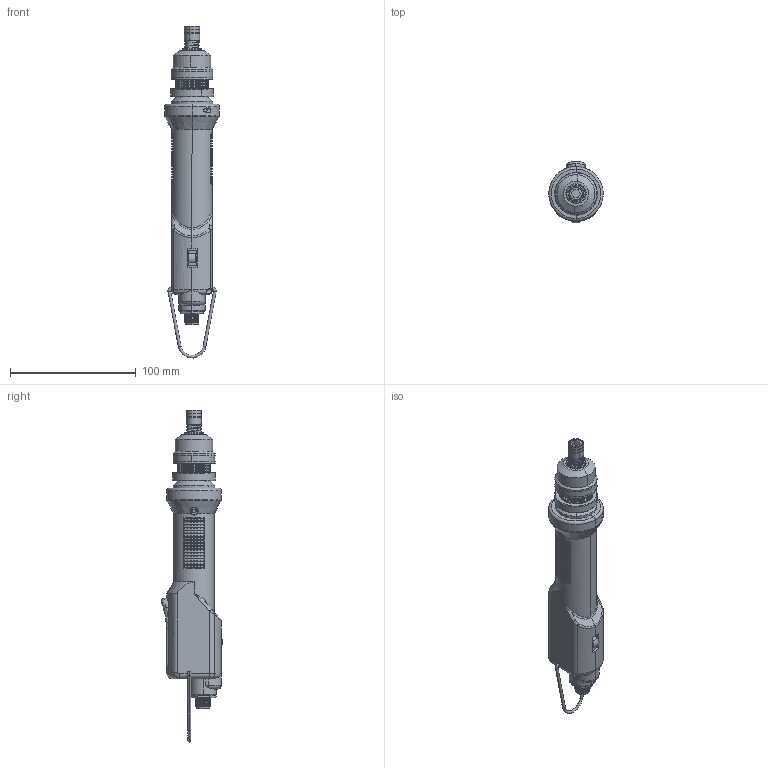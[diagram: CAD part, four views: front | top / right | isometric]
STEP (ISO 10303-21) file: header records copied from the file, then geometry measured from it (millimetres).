
FILE_DESCRIPTION (( 'STEP AP214' ), '1' );
FILE_NAME ('FAB 12-18_FR.STEP', '2014-04-16T14:43:04', ( 'davide' ), ( '' ), 'SwSTEP 2.0', 'SolidWorks 2013', '' );
FILE_SCHEMA (( 'AUTOMOTIVE_DESIGN' ));
Length unit declared in the file: millimetre
Products named in the file (1): FAB 12-18_FR
Bounding box: 43.3 x 48.67 x 263.57 mm (x, y, z)
Volume: 66701.8 mm3; surface area: 75752.2 mm2
Topology: 27 solids, 27 shells, 2686 faces, 6831 edges, 4404 vertices
Faces by surface type: plane 1179, cylinder 946, bspline 269, cone 206, torus 78, sphere 8
Entity records: 233974 total; most frequent: CARTESIAN_POINT 142039, ORIENTED_EDGE 13598, DIRECTION 12222, EDGE_CURVE 6799, AXIS2_PLACEMENT_3D 4457, VERTEX_POINT 4398, LINE 3308, VECTOR 3308
